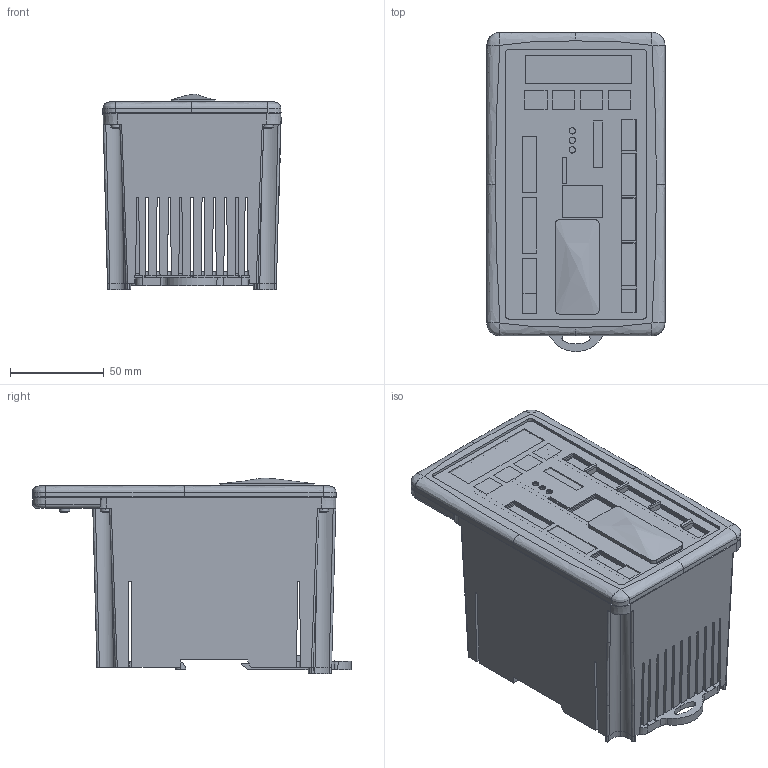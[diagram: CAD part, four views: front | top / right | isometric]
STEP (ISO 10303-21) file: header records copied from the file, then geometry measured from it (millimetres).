
FILE_DESCRIPTION (( 'STEP AP214' ), '1' );
FILE_NAME ('G5 RMD 200576R0.STEP', '2021-04-06T11:23:01', ( '' ), ( '' ), 'SwSTEP 2.0', 'SolidWorks 2021', '' );
FILE_SCHEMA (( 'AUTOMOTIVE_DESIGN' ));
Length unit declared in the file: millimetre
Products named in the file (14): G5 RMD 200576R0; 721157; 200572r0; 601396; G5DISPLAYR0_1; 503497r0; Densitron screen_170524_1; 721960; 110821; 110890; 601383; 200571r0; G5 RMD fyllning; 503224
Assembly tree (18 placements, depth 3):
  G5 RMD 200576R0
    110821
    200571r0
    200572r0
    503497r0
    110890
      G5DISPLAYR0_1
      Densitron screen_170524_1
    721157
    503224
    721960  x6
    601383
    601396
    G5 RMD fyllning
Bounding box: 95.21 x 170.36 x 104.5 mm (x, y, z)
Volume: 215659.1 mm3; surface area: 215415.7 mm2
Topology: 16 solids, 111 shells, 5669 faces, 16188 edges, 10498 vertices
Faces by surface type: plane 4326, bspline 593, cylinder 466, cone 260, torus 20, sphere 4
Entity records: 251319 total; most frequent: CARTESIAN_POINT 63961, ORIENTED_EDGE 31404, DIRECTION 25116, EDGE_CURVE 15704, VECTOR 13192, LINE 13192, VERTEX_POINT 10233, AXIS2_PLACEMENT_3D 5962
